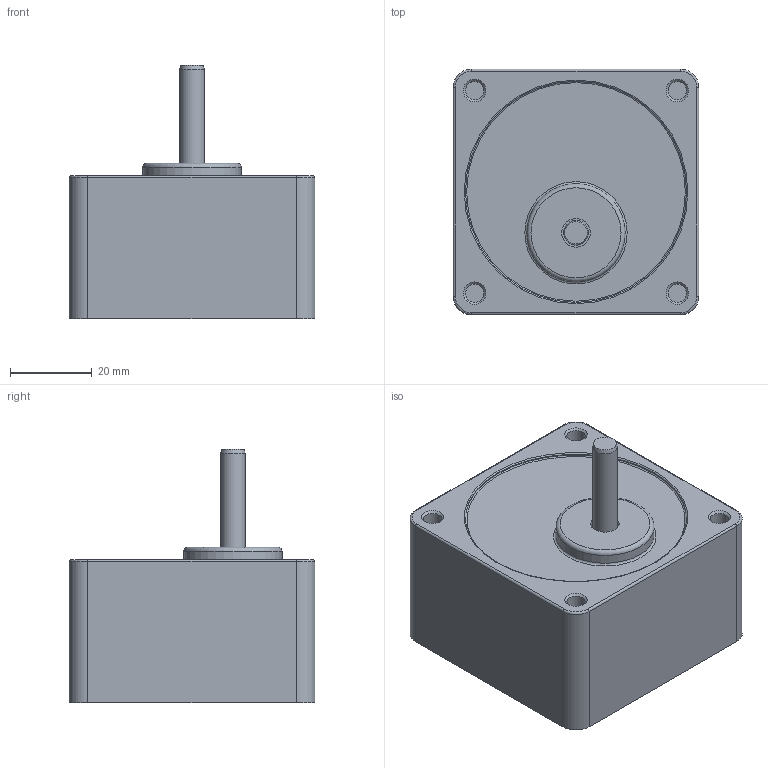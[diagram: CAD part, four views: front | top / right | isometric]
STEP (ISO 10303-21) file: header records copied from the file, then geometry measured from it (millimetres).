
FILE_DESCRIPTION((''),'2;1');
FILE_NAME('D:\STP파일\GEAR HEAD\3W\S6ST20~250.stp','2013-05-20T19:04:00',('leebh'),(''),'Autodesk Inventor 2011','Autodesk Inventor 2011','');
FILE_SCHEMA(('AUTOMOTIVE_DESIGN { 1 0 10303 214 1 1 1 1 }'));
Length unit declared in the file: millimetre
Products named in the file (1): S9I90G-T1
Bounding box: 60 x 60 x 62 mm (x, y, z)
Volume: 112844.1 mm3; surface area: 18900.7 mm2
Topology: 1 solids, 1 shells, 47 faces, 88 edges, 53 vertices
Faces by surface type: cylinder 18, plane 16, torus 8, cone 5
Full cylindrical faces by diameter (mm): 4.5 x4, 6 x2, 7 x1, 24 x1, 53.997 x1, 54 x1
Entity records: 1106 total; most frequent: DIRECTION 214, CARTESIAN_POINT 170, ORIENTED_EDGE 138, AXIS2_PLACEMENT_3D 97, EDGE_LOOP 76, EDGE_CURVE 69, VERTEX_POINT 53, CIRCLE 49
